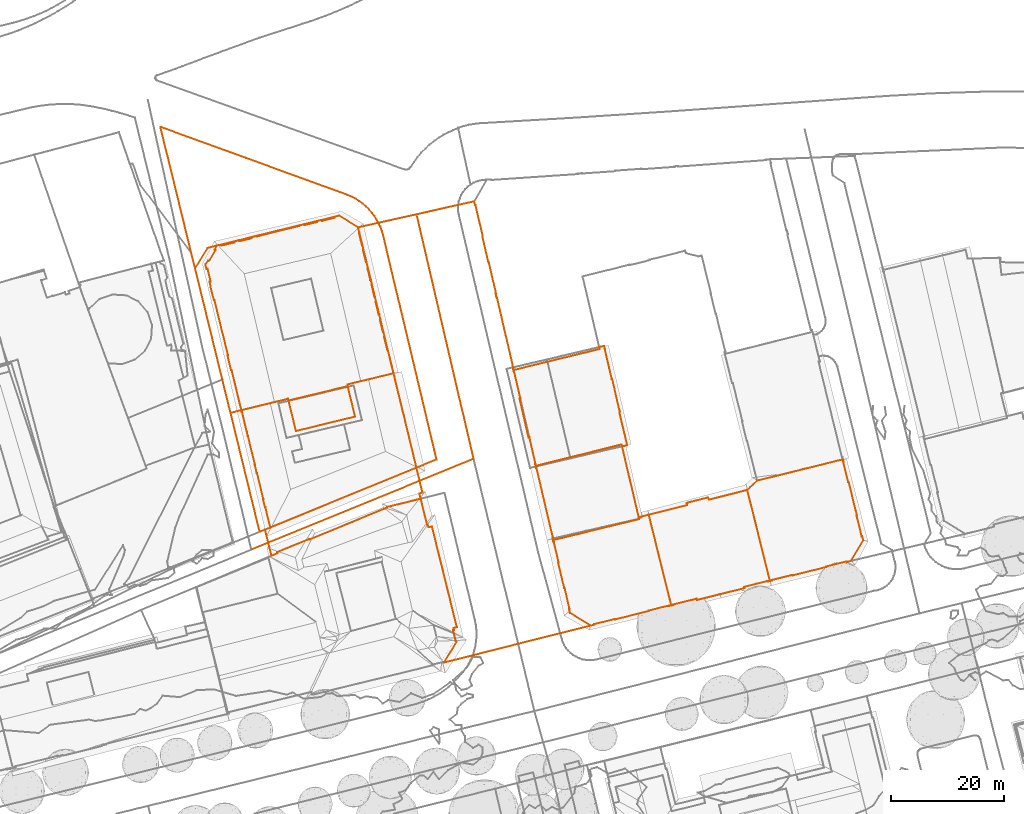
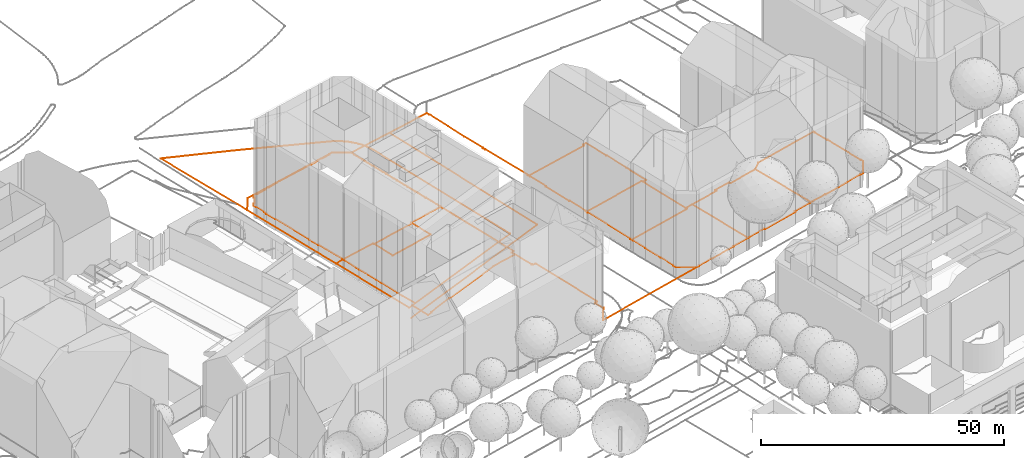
# Not in any storey, part 218 of 494: 13 proxies.
"""IFC2X3 model written with IfcOpenShell, lengths in metres."""

from ifc_helpers import new_model, entity, si_unit, frame, origin_with_axes, place, context, subcontext, project, element, save


model = new_model("IFC2X3")

# Units and contexts
model_context = context("Model", 3, precision=1e-05, world=origin_with_axes())
body_context = subcontext(model_context, "Body", "Model", "MODEL_VIEW")
ifc_project = project(units=[si_unit("AREAUNIT", "SQUARE_METRE"), si_unit("LENGTHUNIT", "METRE")], contexts=[model_context])

# Proxies
proxy_1_placement = place(None, frame((238.4017320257, 402.2767309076, 541.49), z_axis=(0.0, 0.0, 1.0), x_axis=(1.0, 0.0, 0.0)))
element("IfcBuildingElementProxy", 1, at=proxy_1_placement, Name="Road 5", ObjectType="NOTDEFINED", context=body_context, shape_type="GeometricCurveSet", body=[
    entity("IfcGeometricCurveSet", [entity("IfcPolyline", [entity("IfcCartesianPoint", [0.0, 0.0, 0.0]), entity("IfcCartesianPoint", [39.4039999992, 16.1069995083, -0.087])])]),
])
proxy_2_placement = place(None, frame((267.7387320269, 461.526729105, 541.693), z_axis=(0.0, 0.0, 1.0), x_axis=(1.0, 0.0, 0.0)))
element("IfcBuildingElementProxy", 2, at=proxy_2_placement, Name="Road 45", ObjectType="NOTDEFINED", context=body_context, shape_type="GeometricCurveSet", body=[
    entity("IfcGeometricCurveSet", [entity("IfcPolyline", [entity("IfcCartesianPoint", [0.0, 0.0, 0.0]), entity("IfcCartesianPoint", [10.0669999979, -43.1429986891, -0.29])])]),
])
proxy_3_placement = place(None, frame((222.2827320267, 477.1937160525, 541.8190164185), z_axis=(0.0, 0.0, 1.0), x_axis=(1.0, 0.0, 0.0)))
element("IfcBuildingElementProxy", 3, at=proxy_3_placement, Name="Roads Outline 15", ObjectType="NOTDEFINED", context=body_context, shape_type="GeometricCurveSet", body=[
    entity("IfcGeometricCurveSet", [entity("IfcPolyline", [entity("IfcCartesianPoint", [0.0, 0.0, 0.0]), entity("IfcCartesianPoint", [15.1660000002, -5.504, 0.1213694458]), entity("IfcCartesianPoint", [33.1520000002, -12.051, -0.0485975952]), entity("IfcCartesianPoint", [33.8740000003, -12.361, -0.0483331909]), entity("IfcCartesianPoint", [34.571, -12.7239999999, -0.0481192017]), entity("IfcCartesianPoint", [35.2390000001, -13.139, -0.0478943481]), entity("IfcCartesianPoint", [35.8730000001, -13.6030000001, -0.0476621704]), entity("IfcCartesianPoint", [36.4700000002, -14.1140000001, -0.0474786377]), entity("IfcCartesianPoint", [37.0270000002, -14.6680000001, -0.0473005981]), entity("IfcCartesianPoint", [37.5410000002, -15.263, -0.0471123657]), entity("IfcCartesianPoint", [37.952, -15.8130000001, -0.046961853]), entity("IfcCartesianPoint", [38.3250000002, -16.389, -0.0468252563]), entity("IfcCartesianPoint", [38.659, -16.9890000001, -0.0467029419]), entity("IfcCartesianPoint", [38.9930000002, -17.7, -0.048979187]), entity("IfcCartesianPoint", [39.2710000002, -18.4350000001, -0.0556814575]), entity("IfcCartesianPoint", [39.4930000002, -19.1880000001, -0.0610336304]), entity("IfcCartesianPoint", [40.3840000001, -22.9620000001, -0.0843352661]), entity("IfcCartesianPoint", [48.557, -57.24, -0.2920198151]), entity("IfcCartesianPoint", [48.9580000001, -58.923, -0.332273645]), entity("IfcCartesianPoint", [45.3939999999, -60.3840000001, -0.2306987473]), entity("IfcCartesianPoint", [43.1609999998, -51.1940000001, -0.1948359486]), entity("IfcCartesianPoint", [42.4029999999, -48.0719999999, -0.1406201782]), entity("IfcCartesianPoint", [42.2390000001, -47.3959999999, -0.1360457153]), entity("IfcCartesianPoint", [41.477, -44.2579999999, -0.1147911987]), entity("IfcCartesianPoint", [41.335, -43.673, -0.1108303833]), entity("IfcCartesianPoint", [41.2590000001, -43.3589999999, -0.1087105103]), entity("IfcCartesianPoint", [41.0460000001, -42.4820000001, -0.1027692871]), entity("IfcCartesianPoint", [40.6920000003, -41.027, -0.0929075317]), entity("IfcCartesianPoint", [40.307, -39.4410000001, -0.0821921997]), entity("IfcCartesianPoint", [40.2050000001, -39.4620000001, -0.0793533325]), entity("IfcCartesianPoint", [39.6720000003, -37.254, -0.0653491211]), entity("IfcCartesianPoint", [39.7689999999, -37.2280000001, -0.0676876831]), entity("IfcCartesianPoint", [39.5610000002, -36.3700000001, -0.0626730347]), entity("IfcCartesianPoint", [39.4649999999, -36.3959999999, -0.0603585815]), entity("IfcCartesianPoint", [38.9199999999, -34.165, -0.0472192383]), entity("IfcCartesianPoint", [39.017, -34.129, -0.0495578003]), entity("IfcCartesianPoint", [38.8110000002, -33.281, -0.0466472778]), entity("IfcCartesianPoint", [38.713, -33.298, -0.0466831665]), entity("IfcCartesianPoint", [38.1750000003, -31.0600000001, -0.046880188]), entity("IfcCartesianPoint", [38.2660000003, -31.037, -0.0468468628]), entity("IfcCartesianPoint", [38.054, -30.1670000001, -0.0469244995]), entity("IfcCartesianPoint", [37.966, -30.189, -0.0469567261]), entity("IfcCartesianPoint", [37.4169999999, -27.9850000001, -0.0471577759]), entity("IfcCartesianPoint", [37.517, -27.9580000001, -0.0471211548]), entity("IfcCartesianPoint", [37.3089999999, -27.102, -0.0471973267]), entity("IfcCartesianPoint", [37.2140000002, -27.125, -0.0472321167]), entity("IfcCartesianPoint", [36.6839999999, -24.9040000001, -0.0474133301]), entity("IfcCartesianPoint", [36.77, -24.8810000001, -0.047387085]), entity("IfcCartesianPoint", [36.5410000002, -23.9369999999, -0.0474569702]), entity("IfcCartesianPoint", [36.4479999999, -23.959, -0.0474853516]), entity("IfcCartesianPoint", [35.9270000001, -21.8219999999, -0.0476443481]), entity("IfcCartesianPoint", [36.02, -21.794, -0.0476159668]), entity("IfcCartesianPoint", [35.8119999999, -20.9369999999, -0.0476845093]), entity("IfcCartesianPoint", [35.7310000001, -20.9669999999, -0.0477141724]), entity("IfcCartesianPoint", [35.1950000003, -18.7339999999, -0.0479104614]), entity("IfcCartesianPoint", [35.2710000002, -18.7139999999, -0.0478826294]), entity("IfcCartesianPoint", [35.0490000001, -17.797, -0.0479639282]), entity("IfcCartesianPoint", [31.6699999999, -15.7320000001, -0.0490792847]), entity("IfcCartesianPoint", [30.8289999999, -15.939, -0.0493832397]), entity("IfcCartesianPoint", [30.8680000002, -16.1030000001, -0.0493713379]), entity("IfcCartesianPoint", [28.6669999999, -16.6440000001, -0.0501040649]), entity("IfcCartesianPoint", [28.625, -16.4820000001, -0.0501168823]), entity("IfcCartesianPoint", [27.7790000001, -16.6910000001, -0.0503821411]), entity("IfcCartesianPoint", [27.8149999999, -16.845, -0.0503689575]), entity("IfcCartesianPoint", [25.574, -17.398, -0.0511286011]), entity("IfcCartesianPoint", [25.5460000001, -17.2409999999, -0.051138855]), entity("IfcCartesianPoint", [24.5530000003, -17.486, -0.051085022]), entity("IfcCartesianPoint", [24.5630000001, -17.558, -0.0510935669]), entity("IfcCartesianPoint", [17.1010000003, -19.4110000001, 0.0932592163]), entity("IfcCartesianPoint", [17.077, -19.3219999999, 0.0937660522]), entity("IfcCartesianPoint", [16.1540000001, -19.548, 0.1133033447]), entity("IfcCartesianPoint", [16.2009999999, -19.7309999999, 0.1123079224]), entity("IfcCartesianPoint", [13.9670000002, -20.273, 0.079338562]), entity("IfcCartesianPoint", [13.9180000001, -20.0889999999, 0.0770686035]), entity("IfcCartesianPoint", [13.0690000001, -20.294, 0.0376876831]), entity("IfcCartesianPoint", [13.1200000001, -20.4809999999, 0.0400534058]), entity("IfcCartesianPoint", [10.8540000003, -21.024, -0.034378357]), entity("IfcCartesianPoint", [10.8119999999, -20.838, -0.0315328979]), entity("IfcCartesianPoint", [9.9990000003, -21.0349999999, 0.0235470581]), entity("IfcCartesianPoint", [9.5870000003, -21.7309999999, 0.0404435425]), entity("IfcCartesianPoint", [9.7620000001, -21.8430000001, 0.0348466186]), entity("IfcCartesianPoint", [8.571, -23.8160000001, 0.1002277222]), entity("IfcCartesianPoint", [8.409, -23.706, 0.119053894]), entity("IfcCartesianPoint", [7.9750000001, -24.4140000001, 0.1694894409]), entity("IfcCartesianPoint", [8.1680000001, -25.173, 0.14706073]), entity("IfcCartesianPoint", [8.3650000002, -25.122, 0.1241671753]), entity("IfcCartesianPoint", [8.9300000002, -27.3970000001, 0.0614559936]), entity("IfcCartesianPoint", [8.719, -27.4539999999, 0.0830285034]), entity("IfcCartesianPoint", [8.9070000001, -28.176, 0.0621915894]), entity("IfcCartesianPoint", [8.8670000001, -28.193, 0.0658292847]), entity("IfcCartesianPoint", [9.4960000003, -30.727, 0.0433539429]), entity("IfcCartesianPoint", [9.5970000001, -30.703, 0.0401237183]), entity("IfcCartesianPoint", [11.98, -40.4469999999, -0.0067401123]), entity("IfcCartesianPoint", [11.8900000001, -40.48, -0.0102526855]), entity("IfcCartesianPoint", [12.5380000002, -43.1200000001, 0.0154313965]), entity("IfcCartesianPoint", [12.6439999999, -43.095, 0.0196431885]), entity("IfcCartesianPoint", [14.284, -49.899, 0.0817719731]), entity("IfcCartesianPoint", [14.352, -50.2069999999, 0.0740258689]), entity("IfcCartesianPoint", [14.4250000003, -50.5079999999, 0.0658913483]), entity("IfcCartesianPoint", [14.4730000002, -50.497, 0.0676374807]), entity("IfcCartesianPoint", [14.5419999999, -50.8019999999, 0.0550304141]), entity("IfcCartesianPoint", [15.3229999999, -54.057, -0.0868005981]), entity("IfcCartesianPoint", [15.4960000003, -54.801, -0.0912026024]), entity("IfcCartesianPoint", [15.5320000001, -54.7949999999, -0.0912365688]), entity("IfcCartesianPoint", [16.7650000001, -59.872, -0.0525231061]), entity("IfcCartesianPoint", [16.7280000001, -59.888, -0.0525075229]), entity("IfcCartesianPoint", [17.085, -61.328, -0.0623711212]), entity("IfcCartesianPoint", [17.125, -61.3200000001, -0.06149336]), entity("IfcCartesianPoint", [18.2490000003, -65.9380000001, -0.1528750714]), entity("IfcCartesianPoint", [18.1970000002, -65.9669999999, -0.1550058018]), entity("IfcCartesianPoint", [18.5589999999, -67.426, -0.1629855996]), entity("IfcCartesianPoint", [18.608, -67.4299999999, -0.1627975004]), entity("IfcCartesianPoint", [19.4879999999, -71.0, -0.1167751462]), entity("IfcCartesianPoint", [18.5600000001, -71.3800000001, -0.1367043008]), entity("IfcCartesianPoint", [17.6069999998, -71.7720000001, -0.1267196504]), entity("IfcCartesianPoint", [12.432, -50.6740000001, -0.0303872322]), entity("IfcCartesianPoint", [10.9810000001, -44.763, -0.0348307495]), entity("IfcCartesianPoint", [6.148, -25.061, 0.0580539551]), entity("IfcCartesianPoint", [5.4550000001, -22.236, 0.0463912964]), entity("IfcCartesianPoint", [0.0, 0.0, 0.0])])]),
])
proxy_4_placement = place(None, frame((245.0027320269, 428.7027160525, 541.7933792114), z_axis=(0.0, 0.0, 1.0), x_axis=(1.0, 0.0, 0.0)))
element("IfcBuildingElementProxy", 4, at=proxy_4_placement, Name="Cadastre 1", ObjectType="NOTDEFINED", context=body_context, shape_type="GeometricCurveSet", body=[
    entity("IfcGeometricCurveSet", [entity("IfcPolyline", [entity("IfcCartesianPoint", [0.0, 0.0, 0.0]), entity("IfcCartesianPoint", [10.4899999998, 2.5399999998, -0.0229391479]), entity("IfcCartesianPoint", [11.7999999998, -2.861, -0.0354659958]), entity("IfcCartesianPoint", [1.3109999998, -5.4100000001, -0.0571172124]), entity("IfcCartesianPoint", [0.0, 0.0, 0.0])])]),
])
proxy_5_placement = place(None, frame((228.4307320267, 452.1327160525, 541.8770703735), z_axis=(0.0, 0.0, 1.0), x_axis=(1.0, 0.0, 0.0)))
element("IfcBuildingElementProxy", 5, at=proxy_5_placement, Name="Cadastre 4", ObjectType="NOTDEFINED", context=body_context, shape_type="GeometricCurveSet", body=[
    entity("IfcGeometricCurveSet", [entity("IfcPolyline", [entity("IfcCartesianPoint", [0.0, 0.0, 0.0]), entity("IfcCartesianPoint", [2.1919999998, 3.6240000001, 0.0690184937]), entity("IfcCartesianPoint", [25.5219999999, 9.3289999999, -0.1071332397]), entity("IfcCartesianPoint", [28.9010000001, 7.264, -0.1060178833]), entity("IfcCartesianPoint", [35.1869999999, -18.612, -0.1688843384]), entity("IfcCartesianPoint", [26.9920000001, -20.5900000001, -0.1066559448]), entity("IfcCartesianPoint", [27.0619999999, -20.8900000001, -0.1066303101]), entity("IfcCartesianPoint", [16.5720000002, -23.4299999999, -0.0836911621]), entity("IfcCartesianPoint", [16.4920000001, -23.1300000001, -0.0819968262]), entity("IfcCartesianPoint", [8.233, -25.139, 0.0171891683]), entity("IfcCartesianPoint", [6.284, -25.6130000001, -0.0884411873]), entity("IfcCartesianPoint", [4.8330000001, -19.702, -0.0928847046]), entity("IfcCartesianPoint", [0.0, 0.0, 0.0])])]),
])
proxy_6_placement = place(None, frame((234.7147320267, 426.5197160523, 541.7886291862), z_axis=(0.0, 0.0, 1.0), x_axis=(1.0, 0.0, 0.0)))
element("IfcBuildingElementProxy", 6, at=proxy_6_placement, Name="Cadastre 11", ObjectType="NOTDEFINED", context=body_context, shape_type="GeometricCurveSet", body=[
    entity("IfcGeometricCurveSet", [entity("IfcPolyline", [entity("IfcCartesianPoint", [0.0, 0.0, 0.0]), entity("IfcCartesianPoint", [1.949, 0.4740000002, 0.1056303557]), entity("IfcCartesianPoint", [10.2080000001, 2.483, 0.0064443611]), entity("IfcCartesianPoint", [10.2880000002, 2.1830000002, 0.0047500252]), entity("IfcCartesianPoint", [11.5989999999, -3.227, -0.0523671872]), entity("IfcCartesianPoint", [22.088, -0.6779999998, -0.0307159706]), entity("IfcCartesianPoint", [20.7779999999, 4.723, -0.0181891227]), entity("IfcCartesianPoint", [20.7080000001, 5.023, -0.0182147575]), entity("IfcCartesianPoint", [28.9029999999, 7.0010000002, -0.0804431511]), entity("IfcCartesianPoint", [32.9619999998, -9.71, -0.200311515]), entity("IfcCartesianPoint", [6.128, -20.706, -0.1063170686]), entity("IfcCartesianPoint", [5.1749999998, -21.098, -0.0963324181]), entity("IfcCartesianPoint", [0.0, 0.0, 0.0])])]),
])
proxy_7_placement = place(None, frame((240.8427320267, 405.8137160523, 541.6823121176), z_axis=(0.0, 0.0, 1.0), x_axis=(1.0, 0.0, 0.0)))
element("IfcBuildingElementProxy", 7, at=proxy_7_placement, Name="Cadastre 12", ObjectType="NOTDEFINED", context=body_context, shape_type="GeometricCurveSet", body=[
    entity("IfcGeometricCurveSet", [entity("IfcPolyline", [entity("IfcCartesianPoint", [0.0, 0.0, 0.0]), entity("IfcCartesianPoint", [26.8339999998, 10.996, -0.0939944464]), entity("IfcCartesianPoint", [27.8999999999, 6.608, -0.1410407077]), entity("IfcCartesianPoint", [27.3629999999, 6.392, -0.1554535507]), entity("IfcCartesianPoint", [27.5890000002, 5.4770000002, -0.1619175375]), entity("IfcCartesianPoint", [21.6159999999, 4.0040000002, -0.0799478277]), entity("IfcCartesianPoint", [21.6379999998, 3.9130000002, -0.0792921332]), entity("IfcCartesianPoint", [7.8960000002, -1.7359999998, 0.0971708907]), entity("IfcCartesianPoint", [7.8530000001, -1.6449999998, 0.099499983]), entity("IfcCartesianPoint", [2.1549999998, -3.98, 0.0234796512]), entity("IfcCartesianPoint", [2.1940000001, -4.1779999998, 0.0179905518]), entity("IfcCartesianPoint", [1.1329999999, -4.6209999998, 0.0032086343]), entity("IfcCartesianPoint", [0.0, 0.0, 0.0])])]),
])
proxy_8_placement = place(None, frame((284.8507320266, 434.0917160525, 541.6880639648), z_axis=(0.0, 0.0, 1.0), x_axis=(1.0, 0.0, 0.0)))
element("IfcBuildingElementProxy", 8, at=proxy_8_placement, Name="Cadastre 42", ObjectType="NOTDEFINED", context=body_context, shape_type="GeometricCurveSet", body=[
    entity("IfcGeometricCurveSet", [entity("IfcPolyline", [entity("IfcCartesianPoint", [0.0, 0.0, 0.0]), entity("IfcCartesianPoint", [15.3130000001, 3.7249999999, -0.0123292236]), entity("IfcCartesianPoint", [15.23, 4.075, -0.012243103]), entity("IfcCartesianPoint", [16.0950000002, 4.2819999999, -0.012578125]), entity("IfcCartesianPoint", [17.4539999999, -1.6160000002, -0.0092105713]), entity("IfcCartesianPoint", [17.5360000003, -1.591, -0.0090003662]), entity("IfcCartesianPoint", [18.8790000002, -7.3959999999, -0.029096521]), entity("IfcCartesianPoint", [18.7949999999, -7.4200000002, -0.0280451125]), entity("IfcCartesianPoint", [20.1839999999, -13.3060000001, -0.0838715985]), entity("IfcCartesianPoint", [19.2919999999, -13.5290000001, -0.0493271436]), entity("IfcCartesianPoint", [19.21, -13.1780000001, -0.0434434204]), entity("IfcCartesianPoint", [3.9369999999, -16.977, -0.0859885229]), entity("IfcCartesianPoint", [3.8760000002, -16.6530000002, -0.0832617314]), entity("IfcCartesianPoint", [3.946, -16.629, -0.082864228]), entity("IfcCartesianPoint", [2.8459999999, -11.8900000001, -0.0432607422]), entity("IfcCartesianPoint", [2.7000000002, -11.9240000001, -0.0432695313]), entity("IfcCartesianPoint", [1.1129999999, -5.081, -0.0075281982]), entity("IfcCartesianPoint", [1.2590000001, -5.047, -0.0084816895]), entity("IfcCartesianPoint", [0.1660000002, -0.338, -0.0012158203]), entity("IfcCartesianPoint", [0.0970000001, -0.345, -0.0007104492]), entity("IfcCartesianPoint", [0.0, 0.0, 0.0])])]),
])
proxy_9_placement = place(None, frame((257.3317320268, 459.3967160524, 541.7710524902), z_axis=(0.0, 0.0, 1.0), x_axis=(1.0, 0.0, 0.0)))
element("IfcBuildingElementProxy", 9, at=proxy_9_placement, Name="Cadastre 43", ObjectType="NOTDEFINED", context=body_context, shape_type="GeometricCurveSet", body=[
    entity("IfcGeometricCurveSet", [entity("IfcPolyline", [entity("IfcCartesianPoint", [0.0, 0.0, 0.0]), entity("IfcCartesianPoint", [20.574, 4.608, -0.0540959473]), entity("IfcCartesianPoint", [20.7369999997, 3.9310000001, -0.0531309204]), entity("IfcCartesianPoint", [20.818, 3.949, -0.0526513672]), entity("IfcCartesianPoint", [22.1060000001, -1.5630000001, -0.132217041]), entity("IfcCartesianPoint", [22.0239999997, -1.5930000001, -0.121796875]), entity("IfcCartesianPoint", [23.108, -6.2749999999, -0.2264605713]), entity("IfcCartesianPoint", [23.193, -6.2609999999, -0.2265280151]), entity("IfcCartesianPoint", [24.4670000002, -11.7509999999, -0.1960037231]), entity("IfcCartesianPoint", [24.3840000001, -11.7779999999, -0.20015271]), entity("IfcCartesianPoint", [24.4649999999, -12.1329999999, -0.1961036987]), entity("IfcCartesianPoint", [24.5460000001, -12.4879999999, -0.1920546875]), entity("IfcCartesianPoint", [24.6359999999, -12.46, -0.1875557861]), entity("IfcCartesianPoint", [27.5279999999, -24.9469999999, -0.0830544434]), entity("IfcCartesianPoint", [27.4550000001, -24.959, -0.0825197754]), entity("IfcCartesianPoint", [27.5189999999, -25.3049999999, -0.0829885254]), entity("IfcCartesianPoint", [27.6159999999, -25.6499999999, -0.0836989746]), entity("IfcCartesianPoint", [27.6850000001, -25.6429999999, -0.0842043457]), entity("IfcCartesianPoint", [28.7779999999, -30.352, -0.0914702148]), entity("IfcCartesianPoint", [28.6319999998, -30.3859999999, -0.0905167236]), entity("IfcCartesianPoint", [30.219, -37.2290000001, -0.1262580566]), entity("IfcCartesianPoint", [30.3649999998, -37.1950000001, -0.1262492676]), entity("IfcCartesianPoint", [31.4649999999, -41.9339999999, -0.1658527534]), entity("IfcCartesianPoint", [31.395, -41.9580000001, -0.1662502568]), entity("IfcCartesianPoint", [31.4559999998, -42.2819999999, -0.1689770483]), entity("IfcCartesianPoint", [31.5490000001, -42.635, -0.172382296]), entity("IfcCartesianPoint", [31.6189999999, -42.621, -0.1724362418]), entity("IfcCartesianPoint", [34.5409999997, -55.03, -0.3137015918]), entity("IfcCartesianPoint", [34.4550000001, -55.0819999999, -0.3143500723]), entity("IfcCartesianPoint", [34.5409999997, -55.45, -0.3207952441]), entity("IfcCartesianPoint", [34.628, -55.8189999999, -0.3254329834]), entity("IfcCartesianPoint", [34.7000000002, -55.797, -0.3245797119]), entity("IfcCartesianPoint", [35.5699999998, -59.4180000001, -0.3468546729]), entity("IfcCartesianPoint", [35.477, -59.452, -0.3480169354]), entity("IfcCartesianPoint", [36.551, -63.977, -0.3526989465]), entity("IfcCartesianPoint", [36.6329999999, -63.9580000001, -0.3510016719]), entity("IfcCartesianPoint", [37.4759999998, -67.6370000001, -0.3979852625]), entity("IfcCartesianPoint", [37.3939999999, -67.665, -0.400008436]), entity("IfcCartesianPoint", [37.5520000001, -68.3589999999, -0.4019833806]), entity("IfcCartesianPoint", [41.2000000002, -70.5970000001, -0.3660131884]), entity("IfcCartesianPoint", [15.213, -77.1529999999, -0.580103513]), entity("IfcCartesianPoint", [17.477, -73.423, -0.5012434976]), entity("IfcCartesianPoint", [17.3169999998, -73.327, -0.4977678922]), entity("IfcCartesianPoint", [16.835, -71.3859999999, -0.4861227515]), entity("IfcCartesianPoint", [16.9819999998, -71.3570000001, -0.4837997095]), entity("IfcCartesianPoint", [16.9040000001, -71.0179999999, -0.4834548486]), entity("IfcCartesianPoint", [17.5, -70.8740000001, -0.4765981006]), entity("IfcCartesianPoint", [13.1039999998, -53.0220000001, -0.2743575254]), entity("IfcCartesianPoint", [12.5, -53.165, -0.2675161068]), entity("IfcCartesianPoint", [12.4180000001, -52.827, -0.2632041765]), entity("IfcCartesianPoint", [12.2749999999, -52.8729999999, -0.2624470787]), entity("IfcCartesianPoint", [11.1000000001, -48.1059999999, -0.2506579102]), entity("IfcCartesianPoint", [10.8739999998, -47.1910000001, -0.2441939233]), entity("IfcCartesianPoint", [11.4109999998, -46.9750000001, -0.2297810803]), entity("IfcCartesianPoint", [10.3449999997, -42.5870000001, -0.182734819]), entity("IfcCartesianPoint", [6.2859999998, -25.8759999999, -0.0628664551]), entity("IfcCartesianPoint", [0.0, 0.0, 0.0])])]),
])
proxy_10_placement = place(None, frame((326.3277320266, 412.8497160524, 541.6810518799), z_axis=(0.0, 0.0, 1.0), x_axis=(1.0, 0.0, 0.0)))
element("IfcBuildingElementProxy", 10, at=proxy_10_placement, Name="Cadastre 53", ObjectType="NOTDEFINED", context=body_context, shape_type="GeometricCurveSet", body=[
    entity("IfcGeometricCurveSet", [entity("IfcPolyline", [entity("IfcCartesianPoint", [0.0, 0.0, 0.0]), entity("IfcCartesianPoint", [1.73, 1.6459999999, 0.0475198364]), entity("IfcCartesianPoint", [16.977, 5.419, 0.2832824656]), entity("IfcCartesianPoint", [17.0619999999, 5.0449999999, 0.2780066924]), entity("IfcCartesianPoint", [16.9870000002, 5.0160000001, 0.2773351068]), entity("IfcCartesianPoint", [17.8970000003, 1.3829999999, 0.2504889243]), entity("IfcCartesianPoint", [17.9870000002, 1.3970000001, 0.251437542]), entity("IfcCartesianPoint", [19.4560000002, -4.5870000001, 0.2580897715]), entity("IfcCartesianPoint", [19.3900000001, -4.6029999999, 0.2586881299]), entity("IfcCartesianPoint", [20.2940000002, -8.253, 0.2491281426]), entity("IfcCartesianPoint", [20.378, -8.2150000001, 0.2501961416]), entity("IfcCartesianPoint", [20.5530000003, -8.916, 0.2609832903]), entity("IfcCartesianPoint", [18.3360000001, -12.5959999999, 0.2607348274]), entity("IfcCartesianPoint", [17.6500000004, -12.7690000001, 0.2518909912]), entity("IfcCartesianPoint", [17.6180000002, -12.679, 0.253446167]), entity("IfcCartesianPoint", [13.9890000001, -13.584, 0.1592165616]), entity("IfcCartesianPoint", [14.0, -13.6639999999, 0.1625608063]), entity("IfcCartesianPoint", [8.0090000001, -15.1510000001, 0.0833230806]), entity("IfcCartesianPoint", [7.9780000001, -15.0700000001, 0.0829790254]), entity("IfcCartesianPoint", [4.3540000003, -15.959, 0.0991790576]), entity("IfcCartesianPoint", [4.3770000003, -16.051, 0.0997844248]), entity("IfcCartesianPoint", [4.0130000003, -16.1399999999, 0.0999800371]), entity("IfcCartesianPoint", [0.0, 0.0, 0.0])])]),
])
proxy_11_placement = place(None, frame((291.8727320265, 403.9467160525, 541.4502572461), z_axis=(0.0, 0.0, 1.0), x_axis=(1.0, 0.0, 0.0)))
element("IfcBuildingElementProxy", 11, at=proxy_11_placement, Name="Cadastre 54", ObjectType="NOTDEFINED", context=body_context, shape_type="GeometricCurveSet", body=[
    entity("IfcGeometricCurveSet", [entity("IfcPolyline", [entity("IfcCartesianPoint", [0.0, 0.0, 0.0]), entity("IfcCartesianPoint", [15.2810000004, 3.7109999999, 0.1713585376]), entity("IfcCartesianPoint", [15.199, 4.0619999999, 0.1734026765]), entity("IfcCartesianPoint", [16.9840000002, 4.5079999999, 0.1940308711]), entity("IfcCartesianPoint", [20.9850000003, -11.577, 0.1150997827]), entity("IfcCartesianPoint", [20.6210000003, -11.666, 0.0894587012]), entity("IfcCartesianPoint", [20.5830000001, -11.5870000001, 0.085973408]), entity("IfcCartesianPoint", [16.9420000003, -12.487, 0.0159460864]), entity("IfcCartesianPoint", [16.9620000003, -12.5660000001, 0.017635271]), entity("IfcCartesianPoint", [10.9930000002, -14.057, -0.038749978]), entity("IfcCartesianPoint", [10.9610000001, -13.983, -0.0363619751]), entity("IfcCartesianPoint", [7.3260000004, -14.895, -0.0450984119]), entity("IfcCartesianPoint", [7.3370000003, -14.983, -0.0487443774]), entity("IfcCartesianPoint", [6.6590000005, -15.1470000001, -0.0452179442]), entity("IfcCartesianPoint", [3.0110000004, -12.909, -0.0811881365]), entity("IfcCartesianPoint", [2.8530000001, -12.2150000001, -0.0792131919]), entity("IfcCartesianPoint", [2.9350000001, -12.1870000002, -0.0771900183]), entity("IfcCartesianPoint", [2.0920000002, -8.5080000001, -0.0302064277]), entity("IfcCartesianPoint", [2.0100000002, -8.527, -0.0319037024]), entity("IfcCartesianPoint", [0.9360000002, -4.0020000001, -0.0272216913]), entity("IfcCartesianPoint", [1.0290000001, -3.9680000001, -0.0260594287]), entity("IfcCartesianPoint", [0.1590000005, -0.3470000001, -0.0037844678]), entity("IfcCartesianPoint", [0.0870000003, -0.3689999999, -0.0046377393]), entity("IfcCartesianPoint", [0.0, 0.0, 0.0])])]),
])
proxy_12_placement = place(None, frame((308.8567320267, 408.4547160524, 541.6442881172), z_axis=(0.0, 0.0, 1.0), x_axis=(1.0, 0.0, 0.0)))
element("IfcBuildingElementProxy", 12, at=proxy_12_placement, Name="Cadastre 55", ObjectType="NOTDEFINED", context=body_context, shape_type="GeometricCurveSet", body=[
    entity("IfcGeometricCurveSet", [entity("IfcPolyline", [entity("IfcCartesianPoint", [0.0, 0.0, 0.0]), entity("IfcCartesianPoint", [6.8149999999, 1.7010000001, 0.0095787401]), entity("IfcCartesianPoint", [6.7170000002, 2.1040000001, 0.0083993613]), entity("IfcCartesianPoint", [10.5529999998, 3.0649999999, -0.0159785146]), entity("IfcCartesianPoint", [10.6609999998, 2.666, -0.0138951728]), entity("IfcCartesianPoint", [17.4709999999, 4.395, 0.0367637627]), entity("IfcCartesianPoint", [21.4840000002, -11.7449999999, 0.1367437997]), entity("IfcCartesianPoint", [21.1189999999, -11.835, 0.1313844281]), entity("IfcCartesianPoint", [21.085, -11.746, 0.1342044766]), entity("IfcCartesianPoint", [16.9330000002, -12.787, 0.0943608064]), entity("IfcCartesianPoint", [16.9930000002, -13.0189999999, 0.0875341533]), entity("IfcCartesianPoint", [8.568, -15.105, -0.043348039]), entity("IfcCartesianPoint", [8.514, -14.8769999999, -0.0344200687]), entity("IfcCartesianPoint", [4.3420000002, -15.9099999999, -0.0459950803]), entity("IfcCartesianPoint", [4.3650000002, -15.996, -0.0486543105]), entity("IfcCartesianPoint", [4.0010000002, -16.085, -0.0789310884]), entity("IfcCartesianPoint", [0.0, 0.0, 0.0])])]),
])
proxy_13_placement = place(None, frame((288.7877320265, 417.1147160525, 541.6020754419), z_axis=(0.0, 0.0, 1.0), x_axis=(1.0, 0.0, 0.0)))
element("IfcBuildingElementProxy", 13, at=proxy_13_placement, Name="Cadastre 56", ObjectType="NOTDEFINED", context=body_context, shape_type="GeometricCurveSet", body=[
    entity("IfcGeometricCurveSet", [entity("IfcPolyline", [entity("IfcCartesianPoint", [0.0, 0.0, 0.0]), entity("IfcCartesianPoint", [15.273, 3.7989999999, 0.0425451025]), entity("IfcCartesianPoint", [15.355, 3.4479999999, 0.0366613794]), entity("IfcCartesianPoint", [18.284, -9.1060000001, 0.0215844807]), entity("IfcCartesianPoint", [18.3660000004, -9.4570000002, 0.0195403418]), entity("IfcCartesianPoint", [3.085, -13.1680000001, -0.1518181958]), entity("IfcCartesianPoint", [2.9990000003, -12.8, -0.1453730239]), entity("IfcCartesianPoint", [3.085, -12.7480000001, -0.1447245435]), entity("IfcCartesianPoint", [0.1630000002, -0.3390000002, -0.0034591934]), entity("IfcCartesianPoint", [0.0930000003, -0.3530000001, -0.0034052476]), entity("IfcCartesianPoint", [0.0, 0.0, 0.0])])]),
])

save(model, "model.ifc")
